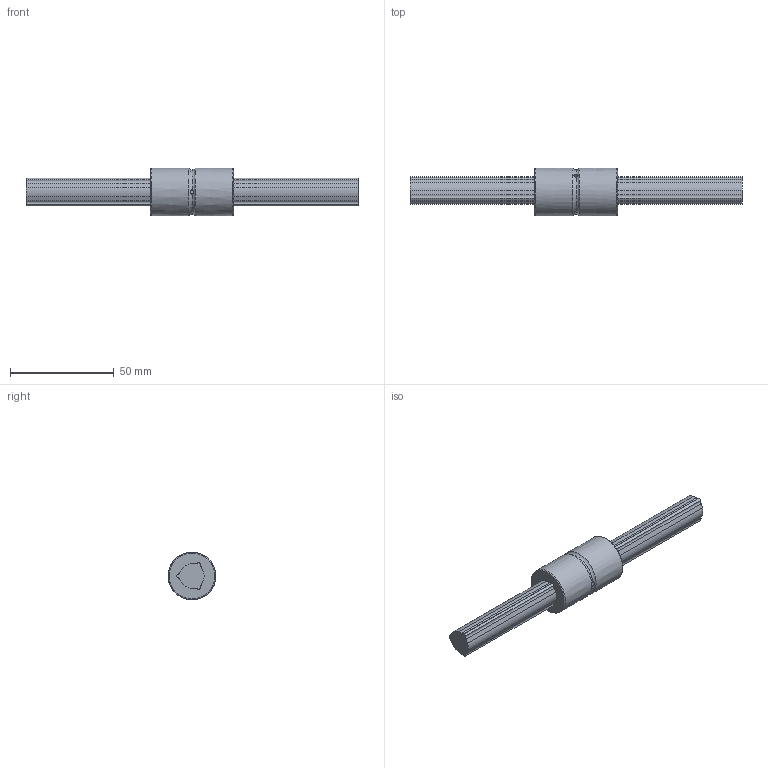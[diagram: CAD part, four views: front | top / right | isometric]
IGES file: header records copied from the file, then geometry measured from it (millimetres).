
Start section: Data from Parasolid IGES Translator 26.0.171, Copyright(c) 2006 Siemens PLM Software. All Rights Reserved.
Global section: file name: LBS15+160L(40600).igs; native system: By Siemens PLM Incorporated; preprocessor: XPlus GENERIC/IGES 26.0.171; author: Noname; organization: Noname; date: 20240523.115813; units: millimetre
Bounding box: 160 x 23 x 23 mm (x, y, z)
Surface area: 12279.9 mm2 (no closed solid volume)
Topology: 0 solids, 0 shells, 58 faces, 344 edges, 338 vertices
Faces by surface type: revolution 39, extrusion 19
